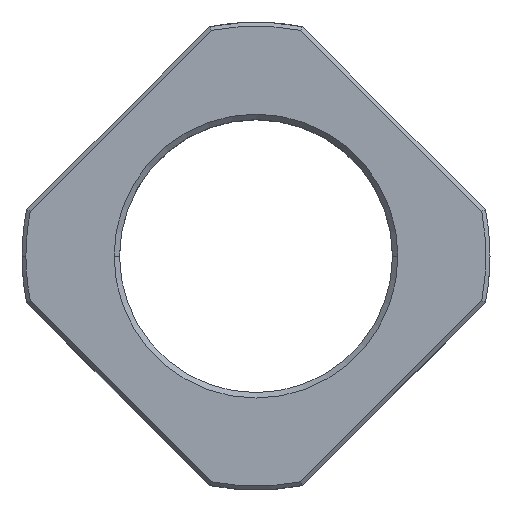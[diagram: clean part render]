
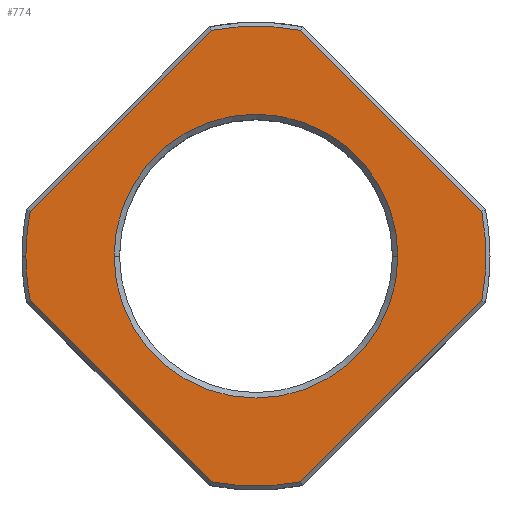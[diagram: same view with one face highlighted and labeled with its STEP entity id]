
A CAD part, top view. The second image highlights one B-rep face of the part: STEP entity #774.
In plain terms, the highlighted planar face has unit normal (0, 0, 1).
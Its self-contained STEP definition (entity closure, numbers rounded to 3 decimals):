
#416 = DIRECTION ( 'NONE',  ( 1., 0., 0. ) ) ;
#417 = CARTESIAN_POINT ( 'NONE',  ( -18.2, 0., 0. ) ) ;
#420 = AXIS2_PLACEMENT_3D ( 'NONE', #421, #433, #416 ) ;
#421 = CARTESIAN_POINT ( 'NONE',  ( 0., 0., 0. ) ) ;
#433 = DIRECTION ( 'NONE',  ( 0., 0., -1. ) ) ;
#438 = CIRCLE ( 'NONE', #420, 18.2 ) ;
#467 = CARTESIAN_POINT ( 'NONE',  ( 18.2, 0., 0. ) ) ;
#487 = CIRCLE ( 'NONE', #496, 29.5 ) ;
#492 = CARTESIAN_POINT ( 'NONE',  ( -28.943, -5.705, 0. ) ) ;
#493 = DIRECTION ( 'NONE',  ( 1., 0., 0. ) ) ;
#494 = DIRECTION ( 'NONE',  ( 0., 0., 1. ) ) ;
#495 = CARTESIAN_POINT ( 'NONE',  ( 0., 0., 0. ) ) ;
#496 = AXIS2_PLACEMENT_3D ( 'NONE', #495, #494, #493 ) ;
#524 = CARTESIAN_POINT ( 'NONE',  ( -29.5, 0., 0. ) ) ;
#642 = DIRECTION ( 'NONE',  ( 0.707, -0.707, 0. ) ) ;
#643 = VECTOR ( 'NONE', #642, 1000. ) ;
#644 = CARTESIAN_POINT ( 'NONE',  ( -35.002, 0.354, 0. ) ) ;
#645 = CIRCLE ( 'NONE', #650, 29.5 ) ;
#649 = CARTESIAN_POINT ( 'NONE',  ( 0., 0., 0. ) ) ;
#650 = AXIS2_PLACEMENT_3D ( 'NONE', #649, #653, #652 ) ;
#651 = CARTESIAN_POINT ( 'NONE',  ( 5.705, -28.943, 0. ) ) ;
#652 = DIRECTION ( 'NONE',  ( 1., 0., 0. ) ) ;
#653 = DIRECTION ( 'NONE',  ( 0., 0., 1. ) ) ;
#657 = LINE ( 'NONE', #644, #643 ) ;
#685 = DIRECTION ( 'NONE',  ( 0.707, 0.707, 0. ) ) ;
#686 = CARTESIAN_POINT ( 'NONE',  ( 35.002, 0.354, 0. ) ) ;
#687 = LINE ( 'NONE', #686, #691 ) ;
#690 = CARTESIAN_POINT ( 'NONE',  ( 28.943, -5.705, 0. ) ) ;
#691 = VECTOR ( 'NONE', #685, 1000. ) ;
#748 = ORIENTED_EDGE ( 'NONE', *, *, #749, .T. ) ;
#749 = EDGE_CURVE ( 'NONE', #1333, #1328, #1282, .T. ) ;
#752 = EDGE_LOOP ( 'NONE', ( #753, #757, #760, #763, #765, #1435, #1437, #1440, #775 ) ) ;
#753 = ORIENTED_EDGE ( 'NONE', *, *, #754, .T. ) ;
#754 = EDGE_CURVE ( 'NONE', #755, #756, #1270, .T. ) ;
#755 = VERTEX_POINT ( 'NONE', #1266 ) ;
#756 = VERTEX_POINT ( 'NONE', #1265 ) ;
#757 = ORIENTED_EDGE ( 'NONE', *, *, #758, .T. ) ;
#758 = EDGE_CURVE ( 'NONE', #756, #759, #1264, .T. ) ;
#759 = VERTEX_POINT ( 'NONE', #1146 ) ;
#760 = ORIENTED_EDGE ( 'NONE', *, *, #761, .T. ) ;
#761 = EDGE_CURVE ( 'NONE', #759, #762, #1145, .T. ) ;
#762 = VERTEX_POINT ( 'NONE', #1141 ) ;
#763 = ORIENTED_EDGE ( 'NONE', *, *, #764, .T. ) ;
#764 = EDGE_CURVE ( 'NONE', #762, #1371, #1140, .T. ) ;
#765 = ORIENTED_EDGE ( 'NONE', *, *, #1364, .T. ) ;
#766 = VERTEX_POINT ( 'NONE', #1135 ) ;
#774 = ADVANCED_FACE ( 'NONE', ( #1121, #1120 ), #1119, .T. ) ;
#775 = ORIENTED_EDGE ( 'NONE', *, *, #776, .T. ) ;
#776 = EDGE_CURVE ( 'NONE', #1442, #755, #1114, .T. ) ;
#1110 = DIRECTION ( 'NONE',  ( 1., 0., 0. ) ) ;
#1111 = DIRECTION ( 'NONE',  ( 0., 0., 1. ) ) ;
#1112 = CARTESIAN_POINT ( 'NONE',  ( 0., 0., 0. ) ) ;
#1113 = AXIS2_PLACEMENT_3D ( 'NONE', #1112, #1111, #1110 ) ;
#1114 = CIRCLE ( 'NONE', #1113, 29.5 ) ;
#1115 = DIRECTION ( 'NONE',  ( 1., 0., 0. ) ) ;
#1116 = DIRECTION ( 'NONE',  ( 0., 0., 1. ) ) ;
#1117 = CARTESIAN_POINT ( 'NONE',  ( 0., 35.355, 0. ) ) ;
#1118 = AXIS2_PLACEMENT_3D ( 'NONE', #1117, #1116, #1115 ) ;
#1119 = PLANE ( 'NONE',  #1118 ) ;
#1120 = FACE_BOUND ( 'NONE', #1431, .T. ) ;
#1121 = FACE_OUTER_BOUND ( 'NONE', #752, .T. ) ;
#1135 = CARTESIAN_POINT ( 'NONE',  ( -5.705, -28.943, 0. ) ) ;
#1136 = DIRECTION ( 'NONE',  ( 1., 0., 0. ) ) ;
#1137 = DIRECTION ( 'NONE',  ( 0., 0., 1. ) ) ;
#1138 = CARTESIAN_POINT ( 'NONE',  ( 0., 0., 0. ) ) ;
#1139 = AXIS2_PLACEMENT_3D ( 'NONE', #1138, #1137, #1136 ) ;
#1140 = CIRCLE ( 'NONE', #1139, 29.5 ) ;
#1141 = CARTESIAN_POINT ( 'NONE',  ( -28.943, 5.705, 0. ) ) ;
#1142 = DIRECTION ( 'NONE',  ( -0.707, -0.707, 0. ) ) ;
#1143 = VECTOR ( 'NONE', #1142, 1000. ) ;
#1144 = CARTESIAN_POINT ( 'NONE',  ( 0.354, 35.002, 0. ) ) ;
#1145 = LINE ( 'NONE', #1144, #1143 ) ;
#1146 = CARTESIAN_POINT ( 'NONE',  ( -5.705, 28.943, 0. ) ) ;
#1260 = DIRECTION ( 'NONE',  ( 1., 0., 0. ) ) ;
#1261 = DIRECTION ( 'NONE',  ( 0., 0., 1. ) ) ;
#1262 = CARTESIAN_POINT ( 'NONE',  ( 0., 0., 0. ) ) ;
#1263 = AXIS2_PLACEMENT_3D ( 'NONE', #1262, #1261, #1260 ) ;
#1264 = CIRCLE ( 'NONE', #1263, 29.5 ) ;
#1265 = CARTESIAN_POINT ( 'NONE',  ( 5.705, 28.943, 0. ) ) ;
#1266 = CARTESIAN_POINT ( 'NONE',  ( 28.943, 5.705, 0. ) ) ;
#1267 = DIRECTION ( 'NONE',  ( -0.707, 0.707, 0. ) ) ;
#1268 = VECTOR ( 'NONE', #1267, 1000. ) ;
#1269 = CARTESIAN_POINT ( 'NONE',  ( -0.354, 35.002, 0. ) ) ;
#1270 = LINE ( 'NONE', #1269, #1268 ) ;
#1278 = DIRECTION ( 'NONE',  ( 1., 0., 0. ) ) ;
#1279 = DIRECTION ( 'NONE',  ( 0., 0., -1. ) ) ;
#1280 = CARTESIAN_POINT ( 'NONE',  ( 0., 0., 0. ) ) ;
#1281 = AXIS2_PLACEMENT_3D ( 'NONE', #1280, #1279, #1278 ) ;
#1282 = CIRCLE ( 'NONE', #1281, 18.2 ) ;
#1326 = EDGE_CURVE ( 'NONE', #1328, #1333, #438, .T. ) ;
#1328 = VERTEX_POINT ( 'NONE', #467 ) ;
#1333 = VERTEX_POINT ( 'NONE', #417 ) ;
#1364 = EDGE_CURVE ( 'NONE', #1371, #1366, #487, .T. ) ;
#1366 = VERTEX_POINT ( 'NONE', #492 ) ;
#1371 = VERTEX_POINT ( 'NONE', #524 ) ;
#1431 = EDGE_LOOP ( 'NONE', ( #1432, #748 ) ) ;
#1432 = ORIENTED_EDGE ( 'NONE', *, *, #1326, .T. ) ;
#1435 = ORIENTED_EDGE ( 'NONE', *, *, #1436, .T. ) ;
#1436 = EDGE_CURVE ( 'NONE', #1366, #766, #657, .T. ) ;
#1437 = ORIENTED_EDGE ( 'NONE', *, *, #1438, .T. ) ;
#1438 = EDGE_CURVE ( 'NONE', #766, #1439, #645, .T. ) ;
#1439 = VERTEX_POINT ( 'NONE', #651 ) ;
#1440 = ORIENTED_EDGE ( 'NONE', *, *, #1441, .T. ) ;
#1441 = EDGE_CURVE ( 'NONE', #1439, #1442, #687, .T. ) ;
#1442 = VERTEX_POINT ( 'NONE', #690 ) ;
